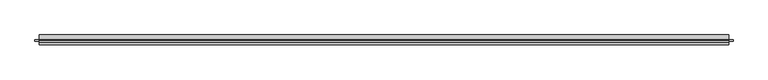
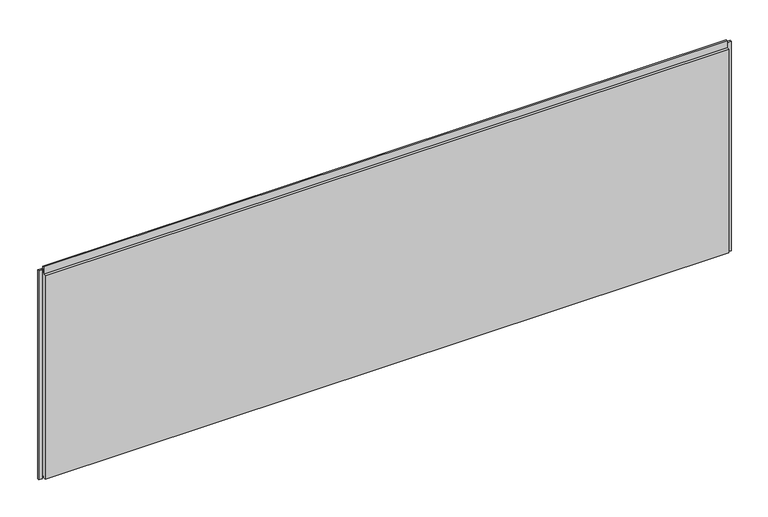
"""IFC4 building model written with IfcOpenShell, lengths in millimetres: plate geometry, Trimo_Qbiss Screen_Normal Panel-HORIZONTAL : HR - B."""

from ifc_helpers import new_model, si_unit, frame, origin, place, context, project, spatial, polyline, outline, extrude, source, transform, mapped, element, save


def plate_eff8318d(model_context):
    return source(origin(), model_context, "Body", "SweptSolid", [
        extrude(outline(polyline([(-1723.0, 76.5978162), (-1723.0, 67.8978162), (-1742.0, 67.8978162), (-1742.0, 76.5978162), (-1723.0, 76.5978162)])), frame((0.0, 0.0, -1.0), z_axis=(0.0, 0.0, 1.0), x_axis=(1.0, 0.0, 0.0)), (0.0, 0.0, 1.0), 1112.5),
        extrude(outline(polyline([(1723.0, 67.8978162), (1723.0, 76.5978162), (1742.0, 76.5978162), (1742.0, 67.8978162), (1723.0, 67.8978162)])), frame((0.0, 0.0, -1.0), z_axis=(0.0, 0.0, 1.0), x_axis=(1.0, 0.0, 0.0)), (0.0, 0.0, 1.0), 1112.5),
        extrude(outline(polyline([(1720.0, 76.0), (1720.0, 71.0), (-1720.0, 71.0), (-1720.0, 76.0), (1720.0, 76.0)])), frame((0.0, 0.0, 1090.5), z_axis=(0.0, 0.0, 1.0), x_axis=(1.0, 0.0, 0.0)), (0.0, 0.0, 1.0), 21.0),
        extrude(outline(polyline([(71.0, 1089.5), (100.0, 1089.5), (100.0, 0.0), (72.0, 0.0), (72.0, 15.5), (62.0, 15.5), (62.0, 7.0), (50.0, 7.0), (50.0, 1089.5), (63.0, 1089.5), (63.0, 1127.0), (71.0, 1127.0), (71.0, 1089.5)])), frame((-1720.0, 0.0, 0.0), z_axis=(1.0, 0.0, 0.0), x_axis=(0.0, 1.0, 0.0)), (0.0, 0.0, 1.0), 3440.0),
    ])


if __name__ == "__main__":
    model = new_model("IFC4")
    model_context = context("Model", 3, world=origin())
    ifc_project = project(units=[si_unit("LENGTHUNIT", "METRE", prefix="MILLI")], contexts=[model_context])
    site = spatial("IfcSite", under=ifc_project)
    building = spatial("IfcBuilding", under=site)
    placement = place(None, origin())
    plate_shape = plate_eff8318d(model_context)
    element("IfcPlate", 1, ObjectType="Trimo_Qbiss Screen_Normal Panel-HORIZONTAL : HR - B", at=placement, inside=building, context=model_context, shape_type="MappedRepresentation", body=[
        mapped(plate_shape, transform((0.0, 0.0, 0.0), x_axis=(1.0, 0.0, 0.0), y_axis=(0.0, 1.0, 0.0), z_axis=(0.0, 0.0, 1.0))),
    ])
    save(model, "model.ifc")
